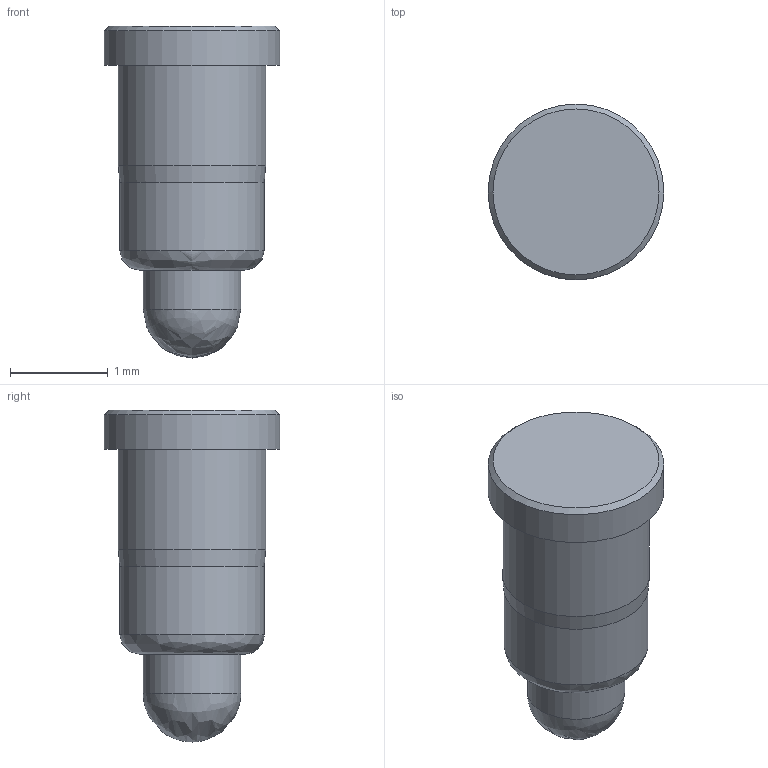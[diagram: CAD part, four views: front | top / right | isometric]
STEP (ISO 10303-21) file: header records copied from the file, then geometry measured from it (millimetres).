
FILE_DESCRIPTION (( 'STEP AP214' ), '1' );
FILE_NAME ('PD8JS-3.4.STEP', '2013-08-15T14:42:05', ( '' ), ( '' ), 'SwSTEP 2.0', 'SolidWorks 2012', '' );
FILE_SCHEMA (( 'AUTOMOTIVE_DESIGN' ));
Length unit declared in the file: millimetre
Products named in the file (1): PD8JS-3.4
Bounding box: 1.8 x 1.8 x 3.4 mm (x, y, z)
Volume: 5.2 mm3; surface area: 18.6 mm2
Topology: 1 solids, 1 shells, 11 faces, 25 edges, 16 vertices
Faces by surface type: cylinder 4, plane 3, cone 2, bspline 2
Full cylindrical faces by diameter (mm): 1 x1, 1.48 x1, 1.51 x1, 1.8 x1
Entity records: 300 total; most frequent: CARTESIAN_POINT 84, DIRECTION 40, ORIENTED_EDGE 24, AXIS2_PLACEMENT_3D 20, EDGE_LOOP 20, FACE_OUTER_BOUND 16, EDGE_CURVE 12, VERTEX_POINT 12
